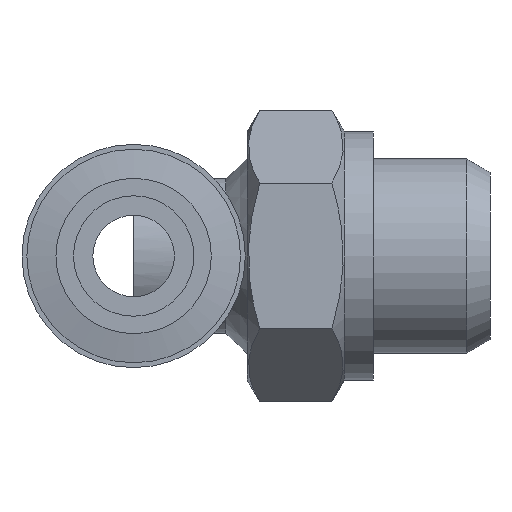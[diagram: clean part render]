
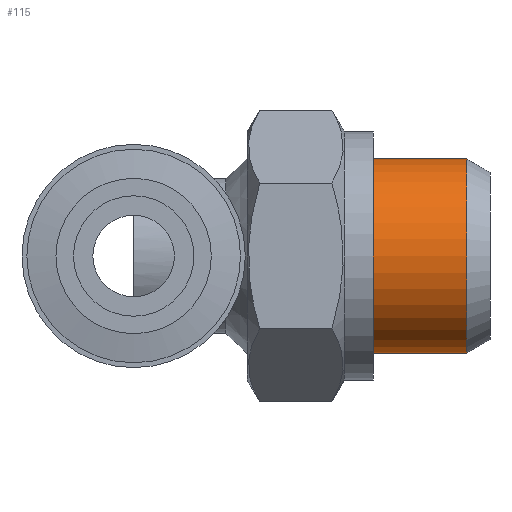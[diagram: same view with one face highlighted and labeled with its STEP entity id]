
A CAD part, front view. The second image highlights one B-rep face of the part: STEP entity #115.
In plain terms, the highlighted cylindrical face has radius 5 mm (diameter 10 mm), a full revolution.
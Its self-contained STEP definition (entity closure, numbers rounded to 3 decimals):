
#73=CARTESIAN_POINT('',(17.15,5.0,0.));
#74=VERTEX_POINT('',#73);
#75=CARTESIAN_POINT('',(17.15,0.0,0.0));
#76=DIRECTION('',(1.0,0.0,0.0));
#77=DIRECTION('',(0.0,-1.0,0.0));
#78=AXIS2_PLACEMENT_3D('',#75,#76,#77);
#79=CIRCLE('',#78,5.0);
#80=EDGE_CURVE('',#74,#74,#79,.T.);
#96=CARTESIAN_POINT('',(15.35,0.0,0.0));
#97=DIRECTION('',(1.0,0.0,0.0));
#98=DIRECTION('',(0.0,1.0,0.0));
#99=AXIS2_PLACEMENT_3D('',#96,#97,#98);
#100=CYLINDRICAL_SURFACE('',#99,5.0);
#101=CARTESIAN_POINT('',(12.35,5.0,0.0));
#102=VERTEX_POINT('',#101);
#103=CARTESIAN_POINT('',(12.35,0.0,0.0));
#104=DIRECTION('',(1.0,0.0,0.0));
#105=DIRECTION('',(0.0,1.0,0.0));
#106=AXIS2_PLACEMENT_3D('',#103,#104,#105);
#107=CIRCLE('',#106,5.0);
#108=EDGE_CURVE('',#102,#102,#107,.T.);
#109=ORIENTED_EDGE('',*,*,#108,.T.);
#110=EDGE_LOOP('',(#109));
#111=FACE_OUTER_BOUND('',#110,.T.);
#112=ORIENTED_EDGE('',*,*,#80,.F.);
#113=EDGE_LOOP('',(#112));
#114=FACE_BOUND('',#113,.T.);
#115=ADVANCED_FACE('',(#111,#114),#100,.T.);
